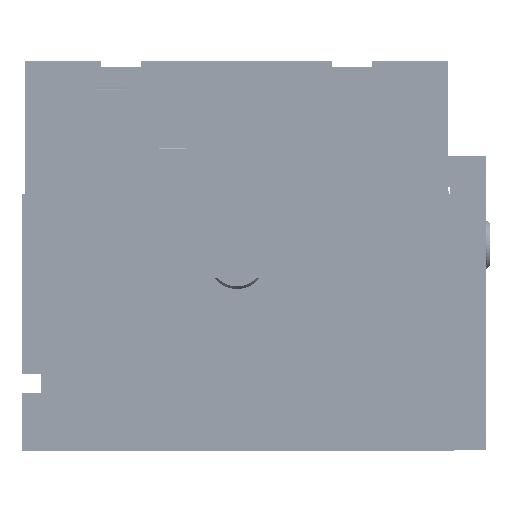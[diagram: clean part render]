
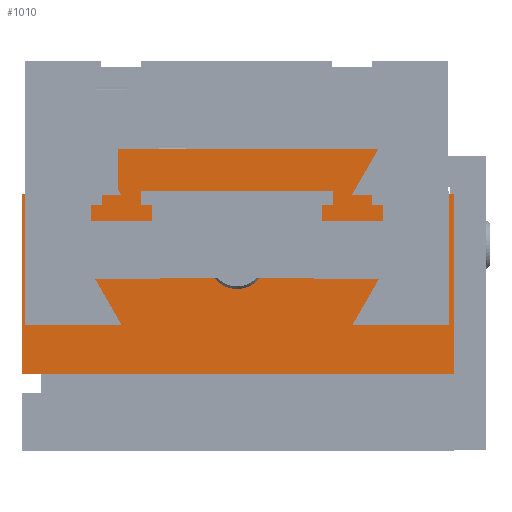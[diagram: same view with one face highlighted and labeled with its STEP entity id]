
A CAD part, left-side view. The second image highlights one B-rep face of the part: STEP entity #1010.
In plain terms, the highlighted planar face has unit normal (-1, 0, 0).
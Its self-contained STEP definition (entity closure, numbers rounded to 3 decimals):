
#1010 = ADVANCED_FACE( '', ( #2705 ), #2706, .F. );
#2705 = FACE_OUTER_BOUND( '', #4960, .T. );
#2706 = PLANE( '', #4961 );
#4960 = EDGE_LOOP( '', ( #14482, #14483, #14484, #14485, #14486, #14487, #14488, #14489 ) );
#4961 = AXIS2_PLACEMENT_3D( '', #14490, #14491, #14492 );
#14482 = ORIENTED_EDGE( '', *, *, #19540, .F. );
#14483 = ORIENTED_EDGE( '', *, *, #19528, .F. );
#14484 = ORIENTED_EDGE( '', *, *, #19501, .F. );
#14485 = ORIENTED_EDGE( '', *, *, #19487, .F. );
#14486 = ORIENTED_EDGE( '', *, *, #19539, .F. );
#14487 = ORIENTED_EDGE( '', *, *, #19541, .F. );
#14488 = ORIENTED_EDGE( '', *, *, #19542, .F. );
#14489 = ORIENTED_EDGE( '', *, *, #19543, .F. );
#14490 = CARTESIAN_POINT( '', ( -75.565, -35.687, 10.846 ) );
#14491 = DIRECTION( '', ( 1., 0., 0. ) );
#14492 = DIRECTION( '', ( 0., 1., 0. ) );
#19487 = EDGE_CURVE( '', #21830, #21832, #21833, .T. );
#19501 = EDGE_CURVE( '', #21832, #21856, #21857, .T. );
#19528 = EDGE_CURVE( '', #21856, #21900, #21901, .T. );
#19539 = EDGE_CURVE( '', #21918, #21830, #21920, .T. );
#19540 = EDGE_CURVE( '', #21900, #21921, #21922, .T. );
#19541 = EDGE_CURVE( '', #21923, #21918, #21924, .T. );
#19542 = EDGE_CURVE( '', #21925, #21923, #21926, .T. );
#19543 = EDGE_CURVE( '', #21921, #21925, #21927, .T. );
#21830 = VERTEX_POINT( '', #25333 );
#21832 = VERTEX_POINT( '', #25336 );
#21833 = LINE( '', #25337, #25338 );
#21856 = VERTEX_POINT( '', #25372 );
#21857 = LINE( '', #25373, #25374 );
#21900 = VERTEX_POINT( '', #25443 );
#21901 = LINE( '', #25444, #25445 );
#21918 = VERTEX_POINT( '', #25469 );
#21920 = LINE( '', #25472, #25473 );
#21921 = VERTEX_POINT( '', #25474 );
#21922 = LINE( '', #25475, #25476 );
#21923 = VERTEX_POINT( '', #25477 );
#21924 = LINE( '', #25478, #25479 );
#21925 = VERTEX_POINT( '', #25480 );
#21926 = LINE( '', #25481, #25482 );
#21927 = LINE( '', #25483, #25484 );
#25333 = CARTESIAN_POINT( '', ( -75.565, -23.318, 10.846 ) );
#25336 = CARTESIAN_POINT( '', ( -75.565, -35.687, 10.846 ) );
#25337 = CARTESIAN_POINT( '', ( -75.565, -23.318, 10.846 ) );
#25338 = VECTOR( '', #47220, 1000. );
#25372 = CARTESIAN_POINT( '', ( -75.565, -35.687, -18.72 ) );
#25373 = CARTESIAN_POINT( '', ( -75.565, -35.687, 10.846 ) );
#25374 = VECTOR( '', #47238, 1000. );
#25443 = CARTESIAN_POINT( '', ( -75.565, 35.433, -18.72 ) );
#25444 = CARTESIAN_POINT( '', ( -75.565, -35.687, -18.72 ) );
#25445 = VECTOR( '', #47265, 1000. );
#25469 = CARTESIAN_POINT( '', ( -75.565, -23.318, 18.364 ) );
#25472 = CARTESIAN_POINT( '', ( -75.565, -23.318, 18.364 ) );
#25473 = VECTOR( '', #47280, 1000. );
#25474 = CARTESIAN_POINT( '', ( -75.565, 35.433, 10.846 ) );
#25475 = CARTESIAN_POINT( '', ( -75.565, 35.433, -18.72 ) );
#25476 = VECTOR( '', #47281, 1000. );
#25477 = CARTESIAN_POINT( '', ( -75.565, 19.568, 18.364 ) );
#25478 = CARTESIAN_POINT( '', ( -75.565, 19.568, 18.364 ) );
#25479 = VECTOR( '', #47282, 1000. );
#25480 = CARTESIAN_POINT( '', ( -75.565, 19.568, 10.846 ) );
#25481 = CARTESIAN_POINT( '', ( -75.565, 19.568, 18.364 ) );
#25482 = VECTOR( '', #47283, 1000. );
#25483 = CARTESIAN_POINT( '', ( -75.565, 19.568, 10.846 ) );
#25484 = VECTOR( '', #47284, 1000. );
#47220 = DIRECTION( '', ( 0., -1., 0. ) );
#47238 = DIRECTION( '', ( 0., 0., -1. ) );
#47265 = DIRECTION( '', ( 0., 1., 0. ) );
#47280 = DIRECTION( '', ( 0., 0., -1. ) );
#47281 = DIRECTION( '', ( 0., 0., 1. ) );
#47282 = DIRECTION( '', ( 0., -1., 0. ) );
#47283 = DIRECTION( '', ( 0., 0., 1. ) );
#47284 = DIRECTION( '', ( 0., -1., 0. ) );
